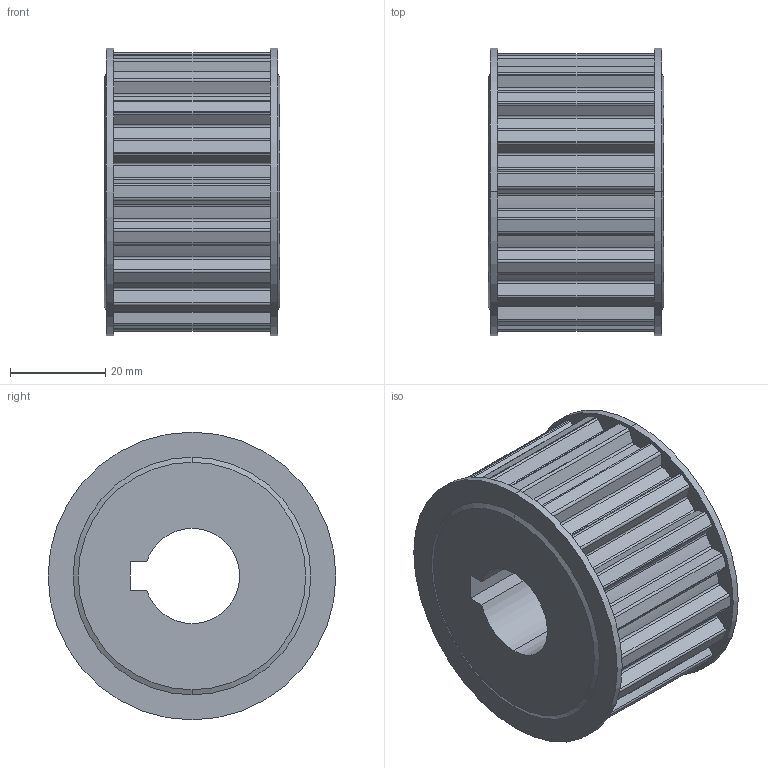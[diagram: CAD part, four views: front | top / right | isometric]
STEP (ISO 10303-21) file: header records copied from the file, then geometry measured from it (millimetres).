
FILE_DESCRIPTION (( 'STEP AP214' ), '1' );
FILE_NAME ('3.2045 Hammashihnapyörä 32T10_19D20K6_0.STEP', '2026-02-10T06:37:18', ( '' ), ( '' ), 'SwSTEP 2.0', 'SolidWorks 2025', '' );
FILE_SCHEMA (( 'AUTOMOTIVE_DESIGN' ));
Length unit declared in the file: millimetre
Products named in the file (1): 3.2045 Hammashihnapyörä 32T10_19D20K6_0
Bounding box: 37 x 60.5 x 60.5 mm (x, y, z)
Volume: 77335.7 mm3; surface area: 17800.9 mm2
Topology: 1 solids, 1 shells, 361 faces, 1005 edges, 670 vertices
Faces by surface type: plane 149, cylinder 130, bspline 78, cone 4
Entity records: 16616 total; most frequent: CARTESIAN_POINT 7613, ORIENTED_EDGE 2010, DIRECTION 1667, EDGE_CURVE 1005, VERTEX_POINT 670, VECTOR 579, LINE 579, AXIS2_PLACEMENT_3D 544
